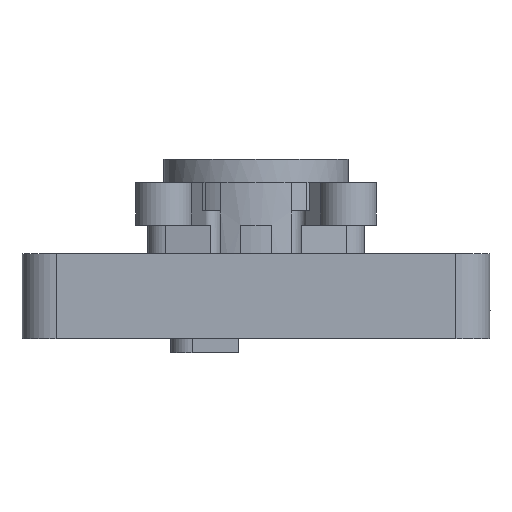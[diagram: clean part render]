
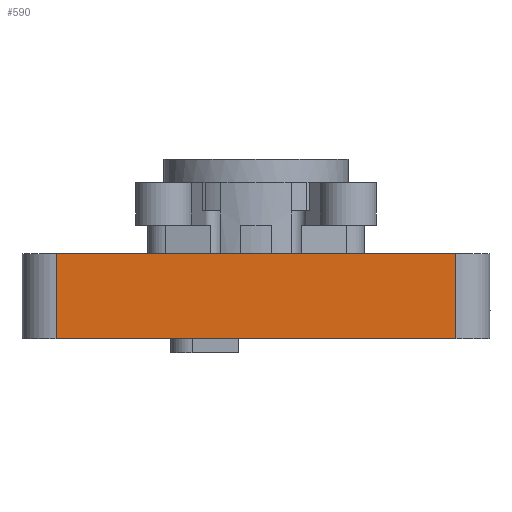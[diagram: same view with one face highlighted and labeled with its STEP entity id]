
A CAD part, front view. The second image highlights one B-rep face of the part: STEP entity #590.
In plain terms, the highlighted planar face has unit normal (0, -1, 0).
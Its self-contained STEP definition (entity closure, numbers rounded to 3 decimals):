
#590=ADVANCED_FACE('',(#920),#3408,.T.);
#920=FACE_OUTER_BOUND('',#1321,.F.);
#1321=EDGE_LOOP('',(#1776,#1777,#1778,#1779));
#1776=ORIENTED_EDGE('',*,*,#6685,.F.);
#1777=ORIENTED_EDGE('',*,*,#6517,.F.);
#1778=ORIENTED_EDGE('',*,*,#6688,.T.);
#1779=ORIENTED_EDGE('',*,*,#6514,.T.);
#3408=PLANE('',#8620);
#5575=LINE('',#11525,#6012);
#5576=LINE('',#11528,#6013);
#5634=LINE('',#11732,#6071);
#5637=LINE('',#11735,#6074);
#6012=VECTOR('',#9144,6.);
#6013=VECTOR('',#9149,6.);
#6071=VECTOR('',#9417,28.2);
#6074=VECTOR('',#9420,28.2);
#6514=EDGE_CURVE('',#8089,#8090,#5575,.T.);
#6517=EDGE_CURVE('',#8084,#8087,#5576,.T.);
#6685=EDGE_CURVE('',#8087,#8090,#5634,.T.);
#6688=EDGE_CURVE('',#8084,#8089,#5637,.T.);
#8084=VERTEX_POINT('',#11313);
#8087=VERTEX_POINT('',#11316);
#8089=VERTEX_POINT('',#11318);
#8090=VERTEX_POINT('',#11319);
#8620=AXIS2_PLACEMENT_3D('',#12281,#10167,#10168);
#9144=DIRECTION('',(0.,0.,1.));
#9149=DIRECTION('',(0.,0.,1.));
#9417=DIRECTION('',(-1.,0.,0.));
#9420=DIRECTION('',(-1.,0.,0.));
#10167=DIRECTION('',(0.,-1.,0.));
#10168=DIRECTION('',(-1.,0.,0.));
#11313=CARTESIAN_POINT('',(212.951,1.05,276.775));
#11316=CARTESIAN_POINT('',(212.951,1.05,282.775));
#11318=CARTESIAN_POINT('',(184.751,1.05,276.775));
#11319=CARTESIAN_POINT('',(184.751,1.05,282.775));
#11525=CARTESIAN_POINT('',(184.751,1.05,276.775));
#11528=CARTESIAN_POINT('',(212.951,1.05,276.775));
#11732=CARTESIAN_POINT('',(212.951,1.05,282.775));
#11735=CARTESIAN_POINT('',(212.951,1.05,276.775));
#12281=CARTESIAN_POINT('',(215.681,1.05,283.105));
